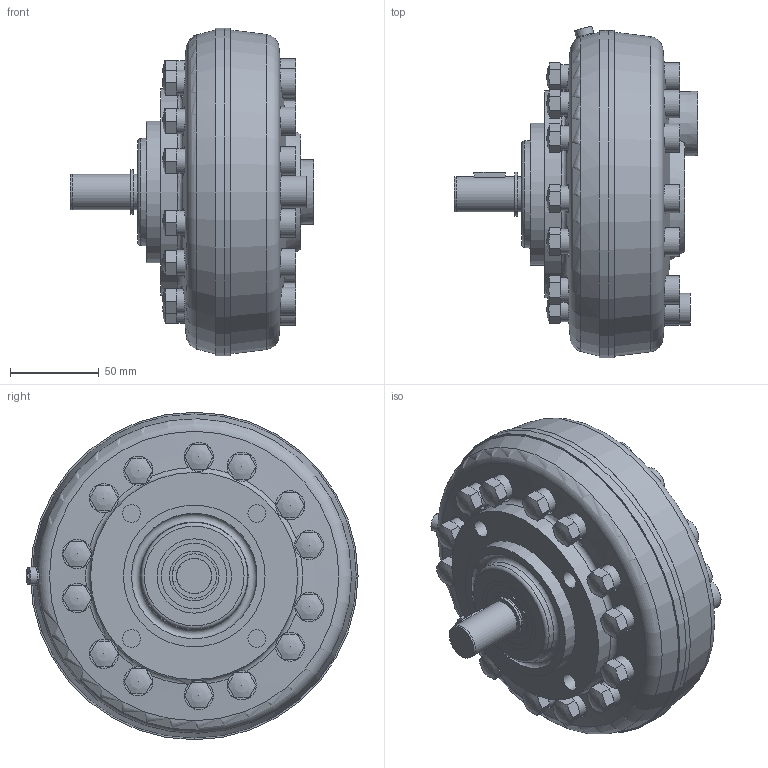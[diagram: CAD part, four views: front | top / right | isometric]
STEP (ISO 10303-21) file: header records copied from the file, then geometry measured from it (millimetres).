
FILE_DESCRIPTION( ( 'STEP AP214' ), '1' );
FILE_NAME( '//HAWE-GROUP.COM/HOME01/KohlhaufM/3D Komponenten/HAWE-R-Pumpe-9,8.stp', '2019-03-13T14:28:37', ( '' ), ( '' ), ' ', 'PARTsolutions', ' ' );
FILE_SCHEMA( ( 'AUTOMOTIVE_DESIGN { 1 0 10303 214 1 1 1 1 }' ) );
Length unit declared in the file: millimetre
Products named in the file (9): 139540959 HAWE 6011-7Zy-1DA_1d; _HAWE 6011-7Zy-1DA_1d; _HAWE ZylSc DIN4762 M10x600; _HAWE Druckanschluss-6010033; _HAWE LagSc-7Zyl; _HAWE Wellendichtring-B1-20x42x7-DIN3760; _HAWE Welle-6011007; _HAWE Hutmutter-6010010; _HAWE M6x6_zs_usr_m6
Assembly tree (34 placements, depth 2):
  139540959 HAWE 6011-7Zy-1DA_1d
    _HAWE 6011-7Zy-1DA_1d
    _HAWE ZylSc DIN4762 M10x600  x14
    _HAWE Druckanschluss-6010033
    _HAWE LagSc-7Zyl
    _HAWE Wellendichtring-B1-20x42x7-DIN3760
    _HAWE Welle-6011007
    _HAWE Hutmutter-6010010  x14
    _HAWE M6x6_zs_usr_m6
Bounding box: 137.5 x 187.5 x 185 mm (x, y, z)
Volume: 676444.5 mm3; surface area: 264224.1 mm2
Topology: 34 solids, 34 shells, 667 faces, 1507 edges, 984 vertices
Faces by surface type: plane 360, cylinder 159, cone 109, torus 25, sphere 14
Full cylindrical faces by diameter (mm): 3 x1, 5 x1, 6 x2, 7 x1, 10 x33, 10.2 x1, 10.5 x28, 11 x1, 11.5 x2, 13.16 x1, 13.8 x1, 14 x14, 16 x14, 16.5 x28, 18 x3, 20 x3, 21 x1, 22 x1, 25 x1, 26 x1, 26.44 x1, 28 x1, 37 x1, 40 x1, 42 x2, 51.98 x1, 52 x1, 72 x1, 80 x1, 108 x1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
Entity records: 13063 total; most frequent: CARTESIAN_POINT 4583, DIRECTION 1284, ORIENTED_EDGE 942, AXIS2_PLACEMENT_3D 604, EDGE_LOOP 550, EDGE_CURVE 471, FACE_OUTER_BOUND 407, VERTEX_POINT 386
